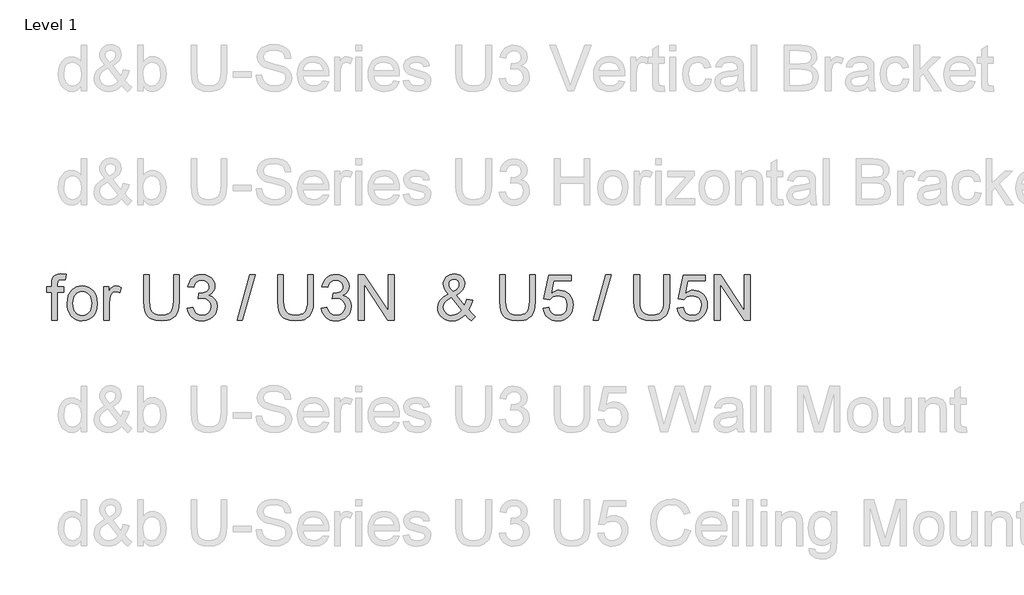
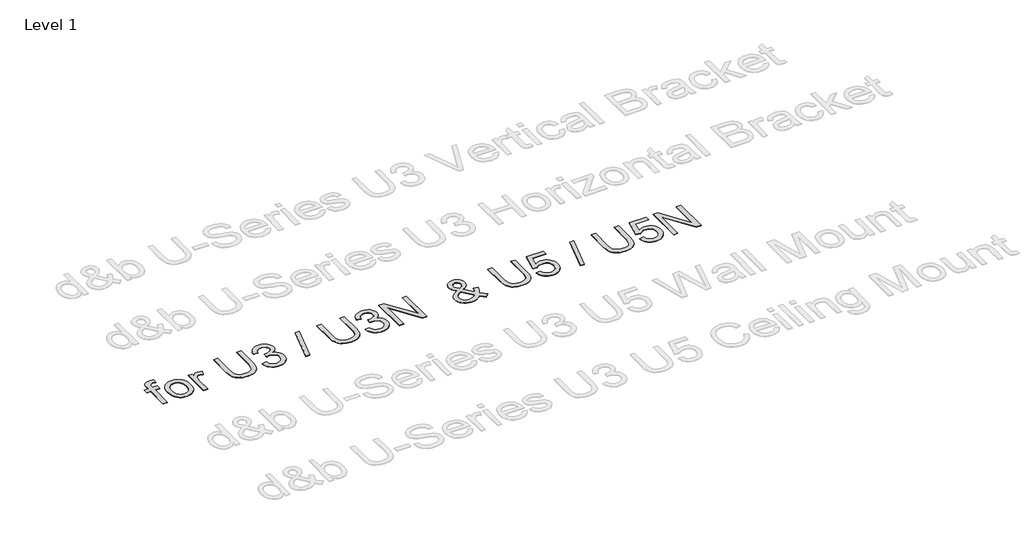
# One storey, part 13 of 29: 1 proxy.
"""IFC4 building model written with IfcOpenShell, lengths in millimetres."""

from ifc_helpers import new_model, si_unit, origin, origin_with_axes, place, context, project, spatial, polyline, outline, extrude, element, save

model = new_model("IFC4")

# Units and contexts
model_context = context("Model", 3, world=origin())
ifc_project = project(units=[si_unit("LENGTHUNIT", "METRE", prefix="MILLI")], contexts=[model_context])

# Site, building, storey
site = spatial("IfcSite", under=ifc_project)
building = spatial("IfcBuilding", under=site)
storey = spatial("IfcBuildingStorey", under=building, Name="Level 1", Elevation=0.0)

# Proxy
placement = place(None, origin())
element("IfcBuildingElementProxy", 1, Name="400mm Arial", ObjectType="400mm Arial", at=placement, inside=storey, context=model_context, shape_type="SweptSolid", body=[
    extrude(outline(polyline([(-21049.3412208, 1146.5012301), (-21049.3412208, 1391.363486), (-21093.2908565, 1391.363486), (-21093.2908565, 1441.5916411), (-21049.3412208, 1441.5916411), (-21049.3412208, 1471.3165063), (-21048.0168456, 1495.9155491), (-21044.0437201, 1513.2060029), (-21033.9392279, 1529.9078454), (-21018.3410313, 1543.1270718), (-20996.5133663, 1551.7355105), (-20967.7204688, 1554.60499), (-20921.9068977, 1549.1112856), (-20929.2645376, 1502.0223902), (-20958.2045879, 1504.376835), (-20977.2976634, 1502.2921703), (-20989.8424395, 1496.0381764), (-20996.7954092, 1484.0942743), (-20999.1130657, 1464.9398851), (-20999.1130657, 1441.5916411), (-20942.6063913, 1441.5916411), (-20942.6063913, 1391.363486), (-20999.1130657, 1391.363486), (-20999.1130657, 1146.5012301), (-21049.3412208, 1146.5012301)])), origin_with_axes(), (0.0, 0.0, 1.0), 5.0),
    extrude(outline(polyline([(-20911.2137944, 1294.0464356), (-20908.497599, 1332.2632435), (-20900.3490128, 1365.1948135), (-20886.7680358, 1392.8411454), (-20867.754668, 1415.2022393), (-20848.6125415, 1429.4944548), (-20827.4838522, 1439.7031802), (-20804.3686002, 1445.8284154), (-20779.2667854, 1447.8701605), (-20751.5560741, 1445.3838914), (-20726.5002446, 1437.9250839), (-20704.0992967, 1425.4937382), (-20684.3532307, 1408.0898541), (-20668.2369336, 1386.3020429), (-20656.7252928, 1360.7189159), (-20649.8183084, 1331.3404729), (-20647.5159802, 1298.1667139), (-20651.5872076, 1247.4235241), (-20663.8008899, 1208.7959146), (-20683.8014077, 1179.868127), (-20711.2331418, 1158.224403), (-20743.8152238, 1144.7231337), (-20779.2667854, 1140.2227107), (-20807.3821669, 1142.6997828), (-20832.6709884, 1150.1309991), (-20855.1332499, 1162.5163596), (-20874.7689514, 1179.8558643), (-20890.7135702, 1201.8552076), (-20902.1025836, 1228.2200839), (-20908.9359917, 1258.9504933), (-20911.2137944, 1294.0464356)]), holes=[polyline([(-20860.9856393, 1294.1445375), (-20859.5325054, 1269.7815523), (-20855.1731038, 1248.6865856), (-20847.9074343, 1230.8596372), (-20837.7354972, 1216.3007073), (-20825.3623994, 1204.9914016), (-20811.4932482, 1196.9133261), (-20796.1280435, 1192.0664808), (-20779.2667854, 1190.4508657), (-20762.4913664, 1192.0756779), (-20747.1874754, 1196.9501143), (-20733.3551124, 1205.0741751), (-20720.9942774, 1216.4478601), (-20710.8223402, 1231.1508771), (-20703.5566708, 1249.262934), (-20699.1972692, 1270.7840308), (-20697.7441353, 1295.7141673), (-20699.2064662, 1319.3046002), (-20703.593459, 1339.847744), (-20710.9051137, 1357.3435985), (-20721.1414302, 1371.7921639), (-20733.5482505, 1383.1014696), (-20747.3714164, 1391.1795451), (-20762.6109281, 1396.0263903), (-20779.2667854, 1397.6420054), (-20796.1280435, 1396.0325217), (-20811.4932482, 1391.2040705), (-20825.3623994, 1383.1566519), (-20837.7354972, 1371.8902658), (-20847.9074343, 1357.3742554), (-20855.1731038, 1339.5779639), (-20859.5325054, 1318.5013912), (-20860.9856393, 1294.1445375)])]), origin_with_axes(), (0.0, 0.0, 1.0), 5.0),
    extrude(outline(polyline([(-20591.0093057, 1146.5012301), (-20591.0093057, 1441.5916411), (-20547.0596701, 1441.5916411), (-20547.0596701, 1397.936311), (-20530.8238113, 1423.2465923), (-20515.8632769, 1438.1580758), (-20500.8536915, 1445.4421393), (-20484.4706799, 1447.8701605), (-20459.4547043, 1443.9951368), (-20434.0463211, 1432.3700658), (-20450.8217401, 1387.3413096), (-20468.4800759, 1395.0668315), (-20486.1384117, 1397.6420054), (-20501.1357343, 1395.1649333), (-20514.5389017, 1387.733717), (-20525.3668951, 1375.9124423), (-20532.6386958, 1360.2651947), (-20538.745537, 1332.2080612), (-20540.7811507, 1301.6002792), (-20540.7811507, 1146.5012301), (-20591.0093057, 1146.5012301)])), origin_with_axes(), (0.0, 0.0, 1.0), 5.0),
    extrude(outline(polyline([(-19975.7144061, 1548.3264707), (-19925.486251, 1548.3264707), (-19925.486251, 1316.5117628), (-19928.8952908, 1262.224643), (-19939.1224103, 1220.4209856), (-19947.3077847, 1203.467757), (-19958.2277486, 1188.1699974), (-19988.2714449, 1162.540885), (-20007.4135713, 1152.7766838), (-20029.3270755, 1145.8022543), (-20081.468217, 1140.2227107), (-20132.4689242, 1145.078753), (-20173.242512, 1159.64688), (-20189.7972018, 1170.4472823), (-20203.8012431, 1183.4243196), (-20215.2546359, 1198.5779922), (-20224.1573802, 1215.9082998), (-20235.5985102, 1259.4777908), (-20239.4122202, 1316.5117628), (-20239.4122202, 1548.3264707), (-20189.1840652, 1548.3264707), (-20189.1840652, 1318.2775963), (-20186.706993, 1273.1384755), (-20179.2757767, 1241.7090904), (-20165.8112957, 1219.942739), (-20145.2344295, 1203.7927194), (-20118.4035693, 1193.7863292), (-20086.1771065, 1190.4508657), (-20058.4939864, 1192.1002034), (-20035.0905601, 1197.0482162), (-20015.9668277, 1205.2949043), (-20001.1227892, 1216.8402675), (-19990.0066216, 1233.0761263), (-19982.0665019, 1255.3943006), (-19977.30243, 1283.7947907), (-19975.7144061, 1318.2775963), (-19975.7144061, 1548.3264707)])), origin_with_axes(), (0.0, 0.0, 1.0), 5.0),
    extrude(outline(polyline([(-19856.4225378, 1253.2360596), (-19806.1943827, 1259.514579), (-19794.9494564, 1227.9503038), (-19778.4806057, 1206.6376735), (-19755.9784904, 1194.4975677), (-19726.6337699, 1190.4508657), (-19692.2000151, 1196.0181466), (-19677.9261937, 1202.9772477), (-19665.6144096, 1212.7199892), (-19648.6182614, 1237.637863), (-19642.9528787, 1267.8532375), (-19648.5692105, 1296.5357704), (-19665.4182059, 1319.7981753), (-19690.9246909, 1335.2124309), (-19722.5134915, 1340.3505161), (-19757.7320612, 1334.8568116), (-19752.1402549, 1385.0849667), (-19744.0959019, 1384.4963555), (-19714.0031547, 1388.101599), (-19687.0987181, 1398.9173297), (-19676.0254701, 1407.0965727), (-19668.1160072, 1417.2133276), (-19663.3703294, 1429.2675943), (-19661.7884369, 1443.2593728), (-19666.3746991, 1464.9521478), (-19680.1334857, 1482.5491699), (-19701.1272849, 1494.2110292), (-19727.4185848, 1498.0983156), (-19753.7589357, 1494.174241), (-19775.2922951, 1482.4020171), (-19791.013119, 1462.781644), (-19799.9158633, 1435.3131217), (-19850.1440184, 1441.5916411), (-19844.1904614, 1465.5714158), (-19835.3551622, 1486.6939737), (-19823.6381206, 1504.9593148), (-19809.0393368, 1520.367439), (-19792.0186632, 1532.5995154), (-19773.0359522, 1541.3367127), (-19752.0912039, 1546.5790312), (-19729.1844184, 1548.3264707), (-19697.6078805, 1544.8806426), (-19668.6065165, 1534.5431586), (-19644.1546266, 1518.2337235), (-19626.2265107, 1496.8720423), (-19615.226839, 1472.2607368), (-19611.5602818, 1446.2024288), (-19615.042898, 1421.9222171), (-19625.4907467, 1399.8983483), (-19642.756675, 1381.1363666), (-19666.6935301, 1366.641816), (-19635.2518823, 1353.9376244), (-19611.9526893, 1332.3061631), (-19597.531715, 1302.9246544), (-19592.7247236, 1266.9703207), (-19595.1282193, 1241.4883612), (-19602.3387064, 1218.0174899), (-19614.356185, 1196.5577069), (-19631.1806549, 1177.1090121), (-19651.6778134, 1160.9712552), (-19674.7133576, 1149.444286), (-19700.2872877, 1142.5281045), (-19728.3996035, 1140.2227107), (-19753.8079866, 1142.1908793), (-19776.9600268, 1148.0953854), (-19797.8557241, 1157.9362287), (-19816.4950786, 1171.7134095), (-19832.123932, 1188.6175871), (-19843.9881263, 1207.8394214), (-19852.0876616, 1229.3789122), (-19856.4225378, 1253.2360596)])), origin_with_axes(), (0.0, 0.0, 1.0), 5.0),
    extrude(outline(polyline([(-19416.9261809, 1146.5012301), (-19303.912832, 1548.3264707), (-19258.3935664, 1548.3264707), (-19371.5050172, 1146.5012301), (-19416.9261809, 1146.5012301)])), origin_with_axes(), (0.0, 0.0, 1.0), 5.0),
    extrude(outline(polyline([(-18795.3527618, 1548.3264707), (-18745.1246067, 1548.3264707), (-18745.1246067, 1316.5117628), (-18748.5336466, 1262.224643), (-18758.760766, 1220.4209856), (-18766.9461404, 1203.467757), (-18777.8661043, 1188.1699974), (-18807.9098006, 1162.540885), (-18827.0519271, 1152.7766838), (-18848.9654313, 1145.8022543), (-18901.1065727, 1140.2227107), (-18952.10728, 1145.078753), (-18992.8808678, 1159.64688), (-19009.4355576, 1170.4472823), (-19023.4395988, 1183.4243196), (-19034.8929916, 1198.5779922), (-19043.7957359, 1215.9082998), (-19055.236866, 1259.4777908), (-19059.050576, 1316.5117628), (-19059.050576, 1548.3264707), (-19008.8224209, 1548.3264707), (-19008.8224209, 1318.2775963), (-19006.3453488, 1273.1384755), (-18998.9141325, 1241.7090904), (-18985.4496515, 1219.942739), (-18964.8727852, 1203.7927194), (-18938.041925, 1193.7863292), (-18905.8154622, 1190.4508657), (-18878.1323421, 1192.1002034), (-18854.7289158, 1197.0482162), (-18835.6051835, 1205.2949043), (-18820.761145, 1216.8402675), (-18809.6449773, 1233.0761263), (-18801.7048576, 1255.3943006), (-18796.9407858, 1283.7947907), (-18795.3527618, 1318.2775963), (-18795.3527618, 1548.3264707)])), origin_with_axes(), (0.0, 0.0, 1.0), 5.0),
    extrude(outline(polyline([(-18676.0608935, 1253.2360596), (-18625.8327384, 1259.514579), (-18614.5878121, 1227.9503038), (-18598.1189615, 1206.6376735), (-18575.6168461, 1194.4975677), (-18546.2721256, 1190.4508657), (-18511.8383709, 1196.0181466), (-18497.5645495, 1202.9772477), (-18485.2527654, 1212.7199892), (-18468.2566172, 1237.637863), (-18462.5912345, 1267.8532375), (-18468.2075662, 1296.5357704), (-18485.0565616, 1319.7981753), (-18510.5630466, 1335.2124309), (-18542.1518473, 1340.3505161), (-18577.3704169, 1334.8568116), (-18571.7786106, 1385.0849667), (-18563.7342577, 1384.4963555), (-18533.6415105, 1388.101599), (-18506.7370739, 1398.9173297), (-18495.6638258, 1407.0965727), (-18487.7543629, 1417.2133276), (-18483.0086852, 1429.2675943), (-18481.4267926, 1443.2593728), (-18486.0130548, 1464.9521478), (-18499.7718414, 1482.5491699), (-18520.7656406, 1494.2110292), (-18547.0569405, 1498.0983156), (-18573.3972914, 1494.174241), (-18594.9306509, 1482.4020171), (-18610.6514748, 1462.781644), (-18619.5542191, 1435.3131217), (-18669.7823741, 1441.5916411), (-18663.8288172, 1465.5714158), (-18654.9935179, 1486.6939737), (-18643.2764764, 1504.9593148), (-18628.6776925, 1520.367439), (-18611.6570189, 1532.5995154), (-18592.6743079, 1541.3367127), (-18571.7295597, 1546.5790312), (-18548.8227741, 1548.3264707), (-18517.2462362, 1544.8806426), (-18488.2448723, 1534.5431586), (-18463.7929823, 1518.2337235), (-18445.8648664, 1496.8720423), (-18434.8651948, 1472.2607368), (-18431.1986375, 1446.2024288), (-18434.6812538, 1421.9222171), (-18445.1291024, 1399.8983483), (-18462.3950307, 1381.1363666), (-18486.3318859, 1366.641816), (-18454.890238, 1353.9376244), (-18431.591045, 1332.3061631), (-18417.1700708, 1302.9246544), (-18412.3630794, 1266.9703207), (-18414.7665751, 1241.4883612), (-18421.9770622, 1218.0174899), (-18433.9945407, 1196.5577069), (-18450.8190106, 1177.1090121), (-18471.3161691, 1160.9712552), (-18494.3517134, 1149.444286), (-18519.9256434, 1142.5281045), (-18548.0379592, 1140.2227107), (-18573.4463423, 1142.1908793), (-18596.5983826, 1148.0953854), (-18617.4940799, 1157.9362287), (-18636.1334343, 1171.7134095), (-18651.7622877, 1188.6175871), (-18663.6264821, 1207.8394214), (-18671.7260173, 1229.3789122), (-18676.0608935, 1253.2360596)])), origin_with_axes(), (0.0, 0.0, 1.0), 5.0),
    extrude(outline(polyline([(-18349.5778855, 1146.5012301), (-18349.5778855, 1548.3264707), (-18295.8180633, 1548.3264707), (-18085.8800714, 1229.9859175), (-18085.8800714, 1548.3264707), (-18035.6519163, 1548.3264707), (-18035.6519163, 1146.5012301), (-18089.4117385, 1146.5012301), (-18299.3497305, 1464.9398851), (-18299.3497305, 1146.5012301), (-18349.5778855, 1146.5012301)])), origin_with_axes(), (0.0, 0.0, 1.0), 5.0),
    extrude(outline(polyline([(-17409.6639133, 1196.1407739), (-17435.1949238, 1171.6766213), (-17462.9332262, 1154.2022265), (-17492.9278716, 1143.7175896), (-17525.2279107, 1140.2227107), (-17554.535843, 1142.8101474), (-17580.6554647, 1150.5724575), (-17603.5867757, 1163.509641), (-17623.3297761, 1181.6216979), (-17636.1627264, 1198.9918594), (-17645.3291194, 1217.3553023), (-17650.8289553, 1236.7120266), (-17652.6622339, 1257.0620323), (-17646.7638592, 1292.2560765), (-17629.0687352, 1323.8694027), (-17599.6504384, 1351.8774852), (-17558.582545, 1376.2557988), (-17580.4960492, 1404.6072379), (-17593.6539618, 1427.072565), (-17600.2390496, 1446.2514797), (-17602.4340788, 1464.7436814), (-17600.7050334, 1482.2977839), (-17595.5178973, 1498.6624013), (-17586.8726704, 1513.8375336), (-17574.7693528, 1527.8231808), (-17560.0479416, 1539.5402223), (-17543.5484341, 1547.9095377), (-17525.2708303, 1552.931127), (-17505.2151302, 1554.60499), (-17486.0668724, 1553.0047034), (-17468.7457618, 1548.2038433), (-17453.2517984, 1540.2024099), (-17439.5849823, 1529.0004032), (-17428.4258951, 1515.5543163), (-17420.4551185, 1500.8206423), (-17415.6726526, 1484.7993815), (-17414.0784973, 1467.4905336), (-17418.7996495, 1439.5069765), (-17432.9631064, 1413.6326095), (-17456.5688677, 1389.8674326), (-17489.6169336, 1368.2114458), (-17416.9234514, 1277.6634241), (-17404.5380909, 1303.5377911), (-17395.2429391, 1333.2871817), (-17345.014784, 1322.3978747), (-17360.4658278, 1275.873065), (-17380.5276593, 1239.6980022), (-17351.9800165, 1206.3924189), (-17319.9007065, 1178.8748456), (-17357.5718228, 1140.2227107), (-17383.2009351, 1163.6690565), (-17409.6639133, 1196.1407739)]), holes=[polyline([(-17515.0253167, 1399.8983483), (-17488.7585423, 1416.5634027), (-17473.7244314, 1431.0456906), (-17466.6610971, 1445.135571), (-17464.3066523, 1460.623403), (-17467.4091238, 1478.1713742), (-17476.7165383, 1492.1631527), (-17490.6837914, 1501.3234144), (-17507.7657787, 1504.376835), (-17525.215648, 1501.3479399), (-17539.5017322, 1492.2612546), (-17549.0298758, 1478.8090363), (-17552.2059237, 1462.6835422), (-17547.8894416, 1444.2894424), (-17534.8418936, 1423.8352035), (-17515.0253167, 1399.8983483)]), polyline([(-17443.3128532, 1232.3403623), (-17532.9779581, 1344.2745907), (-17567.2277719, 1322.4224002), (-17588.1602574, 1302.1888904), (-17598.8656234, 1282.8628229), (-17602.4340788, 1263.7329592), (-17597.553511, 1240.0413587), (-17582.9118076, 1215.4668414), (-17572.1328651, 1204.5223521), (-17559.318309, 1196.7048597), (-17544.4681391, 1192.0143642), (-17527.5823555, 1190.4508657), (-17504.8595109, 1193.3693962), (-17481.4254279, 1202.1249877), (-17460.002433, 1215.5158924), (-17443.3128532, 1232.3403623)])]), origin_with_axes(), (0.0, 0.0, 1.0), 5.0),
    extrude(outline(polyline([(-16842.7332333, 1548.3264707), (-16792.5050782, 1548.3264707), (-16792.5050782, 1316.5117628), (-16795.914118, 1262.224643), (-16806.1412375, 1220.4209856), (-16814.3266119, 1203.467757), (-16825.2465758, 1188.1699974), (-16855.2902721, 1162.540885), (-16874.4323985, 1152.7766838), (-16896.3459027, 1145.8022543), (-16948.4870442, 1140.2227107), (-16999.4877514, 1145.078753), (-17040.2613392, 1159.64688), (-17056.816029, 1170.4472823), (-17070.8200703, 1183.4243196), (-17082.2734631, 1198.5779922), (-17091.1762074, 1215.9082998), (-17102.6173374, 1259.4777908), (-17106.4310474, 1316.5117628), (-17106.4310474, 1548.3264707), (-17056.2028924, 1548.3264707), (-17056.2028924, 1318.2775963), (-17053.7258203, 1273.1384755), (-17046.294604, 1241.7090904), (-17032.8301229, 1219.942739), (-17012.2532567, 1203.7927194), (-16985.4223965, 1193.7863292), (-16953.1959337, 1190.4508657), (-16925.5128136, 1192.1002034), (-16902.1093873, 1197.0482162), (-16882.9856549, 1205.2949043), (-16868.1416164, 1216.8402675), (-16857.0254488, 1233.0761263), (-16849.0853291, 1255.3943006), (-16844.3212572, 1283.7947907), (-16842.7332333, 1318.2775963), (-16842.7332333, 1548.3264707)])), origin_with_axes(), (0.0, 0.0, 1.0), 5.0),
    extrude(outline(polyline([(-16723.441365, 1253.2360596), (-16673.2132099, 1259.514579), (-16663.9916346, 1229.3605181), (-16647.9029286, 1207.765845), (-16625.0206685, 1194.7796106), (-16595.4184307, 1190.4508657), (-16576.2885669, 1191.9561162), (-16559.4150461, 1196.4718677), (-16544.7978681, 1203.9981202), (-16532.4370331, 1214.5348737), (-16522.6084525, 1227.560962), (-16515.5880377, 1242.555219), (-16509.9717059, 1278.448239), (-16515.2324185, 1312.2443316), (-16521.8083091, 1326.1625338), (-16531.014556, 1338.0941731), (-16542.8818161, 1347.6652364), (-16557.440746, 1354.5017101), (-16594.6336157, 1359.9708891), (-16618.9996666, 1357.7881226), (-16638.7304042, 1351.2398231), (-16654.4880164, 1341.2089074), (-16666.9346905, 1328.5782922), (-16717.1628456, 1334.8568116), (-16673.2132099, 1542.0479513), (-16478.579109, 1542.0479513), (-16478.579109, 1491.8197962), (-16632.5990376, 1491.8197962), (-16654.181448, 1381.160892), (-16636.4556672, 1393.8650836), (-16618.3006908, 1402.9395062), (-16599.7165186, 1408.3841597), (-16580.7031509, 1410.1990442), (-16556.2389982, 1407.9488327), (-16533.7614083, 1401.1981981), (-16513.2703811, 1389.9471404), (-16494.7659168, 1374.1956596), (-16479.4436317, 1354.9063803), (-16468.4991423, 1333.0419271), (-16461.9324487, 1308.6022999), (-16459.7435508, 1281.5874987), (-16461.7117195, 1255.5659789), (-16467.6162255, 1231.3593436), (-16477.4570689, 1208.9675928), (-16491.2342496, 1188.3907266), (-16512.1054215, 1167.3172196), (-16536.4592096, 1152.2647147), (-16564.2956139, 1143.2332117), (-16595.6146344, 1140.2227107), (-16621.5349866, 1142.1571568), (-16644.94761, 1147.9604953), (-16665.8525043, 1157.6327261), (-16684.2496698, 1171.1738492), (-16699.5566265, 1187.9094143), (-16711.1908945, 1207.1649711), (-16719.1524741, 1228.9405195), (-16723.441365, 1253.2360596)])), origin_with_axes(), (0.0, 0.0, 1.0), 5.0),
    extrude(outline(polyline([(-16283.9450081, 1146.5012301), (-16170.9316592, 1548.3264707), (-16125.4123936, 1548.3264707), (-16238.5238444, 1146.5012301), (-16283.9450081, 1146.5012301)])), origin_with_axes(), (0.0, 0.0, 1.0), 5.0),
    extrude(outline(polyline([(-15662.371589, 1548.3264707), (-15612.143434, 1548.3264707), (-15612.143434, 1316.5117628), (-15615.5524738, 1262.224643), (-15625.7795932, 1220.4209856), (-15633.9649676, 1203.467757), (-15644.8849315, 1188.1699974), (-15674.9286278, 1162.540885), (-15694.0707543, 1152.7766838), (-15715.9842585, 1145.8022543), (-15768.1253999, 1140.2227107), (-15819.1261072, 1145.078753), (-15859.899695, 1159.64688), (-15876.4543848, 1170.4472823), (-15890.458426, 1183.4243196), (-15901.9118188, 1198.5779922), (-15910.8145631, 1215.9082998), (-15922.2556932, 1259.4777908), (-15926.0694032, 1316.5117628), (-15926.0694032, 1548.3264707), (-15875.8412481, 1548.3264707), (-15875.8412481, 1318.2775963), (-15873.364176, 1273.1384755), (-15865.9329597, 1241.7090904), (-15852.4684787, 1219.942739), (-15831.8916124, 1203.7927194), (-15805.0607522, 1193.7863292), (-15772.8342895, 1190.4508657), (-15745.1511693, 1192.1002034), (-15721.7477431, 1197.0482162), (-15702.6240107, 1205.2949043), (-15687.7799722, 1216.8402675), (-15676.6638045, 1233.0761263), (-15668.7236848, 1255.3943006), (-15663.959613, 1283.7947907), (-15662.371589, 1318.2775963), (-15662.371589, 1548.3264707)])), origin_with_axes(), (0.0, 0.0, 1.0), 5.0),
    extrude(outline(polyline([(-15543.0797207, 1253.2360596), (-15492.8515657, 1259.514579), (-15483.6299903, 1229.3605181), (-15467.5412844, 1207.765845), (-15444.6590243, 1194.7796106), (-15415.0567864, 1190.4508657), (-15395.9269227, 1191.9561162), (-15379.0534018, 1196.4718677), (-15364.4362239, 1203.9981202), (-15352.0753888, 1214.5348737), (-15342.2468082, 1227.560962), (-15335.2263935, 1242.555219), (-15329.6100617, 1278.448239), (-15334.8707742, 1312.2443316), (-15341.4466649, 1326.1625338), (-15350.6529118, 1338.0941731), (-15362.5201718, 1347.6652364), (-15377.0791018, 1354.5017101), (-15414.2719715, 1359.9708891), (-15438.6380223, 1357.7881226), (-15458.36876, 1351.2398231), (-15474.1263721, 1341.2089074), (-15486.5730463, 1328.5782922), (-15536.8012013, 1334.8568116), (-15492.8515657, 1542.0479513), (-15298.2174647, 1542.0479513), (-15298.2174647, 1491.8197962), (-15452.2373934, 1491.8197962), (-15473.8198038, 1381.160892), (-15456.094023, 1393.8650836), (-15437.9390465, 1402.9395062), (-15419.3548744, 1408.3841597), (-15400.3415066, 1410.1990442), (-15375.8773539, 1407.9488327), (-15353.399764, 1401.1981981), (-15332.9087369, 1389.9471404), (-15314.4042725, 1374.1956596), (-15299.0819874, 1354.9063803), (-15288.1374981, 1333.0419271), (-15281.5708045, 1308.6022999), (-15279.3819066, 1281.5874987), (-15281.3500753, 1255.5659789), (-15287.2545813, 1231.3593436), (-15297.0954247, 1208.9675928), (-15310.8726054, 1188.3907266), (-15331.7437772, 1167.3172196), (-15356.0975653, 1152.2647147), (-15383.9339696, 1143.2332117), (-15415.2529901, 1140.2227107), (-15441.1733424, 1142.1571568), (-15464.5859657, 1147.9604953), (-15485.4908601, 1157.6327261), (-15503.8880255, 1171.1738492), (-15519.1949822, 1187.9094143), (-15530.8292503, 1207.1649711), (-15538.7908298, 1228.9405195), (-15543.0797207, 1253.2360596)])), origin_with_axes(), (0.0, 0.0, 1.0), 5.0),
    extrude(outline(polyline([(-15216.5967127, 1146.5012301), (-15216.5967127, 1548.3264707), (-15162.8368905, 1548.3264707), (-14952.8988986, 1229.9859175), (-14952.8988986, 1548.3264707), (-14902.6707435, 1548.3264707), (-14902.6707435, 1146.5012301), (-14956.4305658, 1146.5012301), (-15166.3685577, 1464.9398851), (-15166.3685577, 1146.5012301), (-15216.5967127, 1146.5012301)])), origin_with_axes(), (0.0, 0.0, 1.0), 5.0),
])

save(model, "model.ifc")
